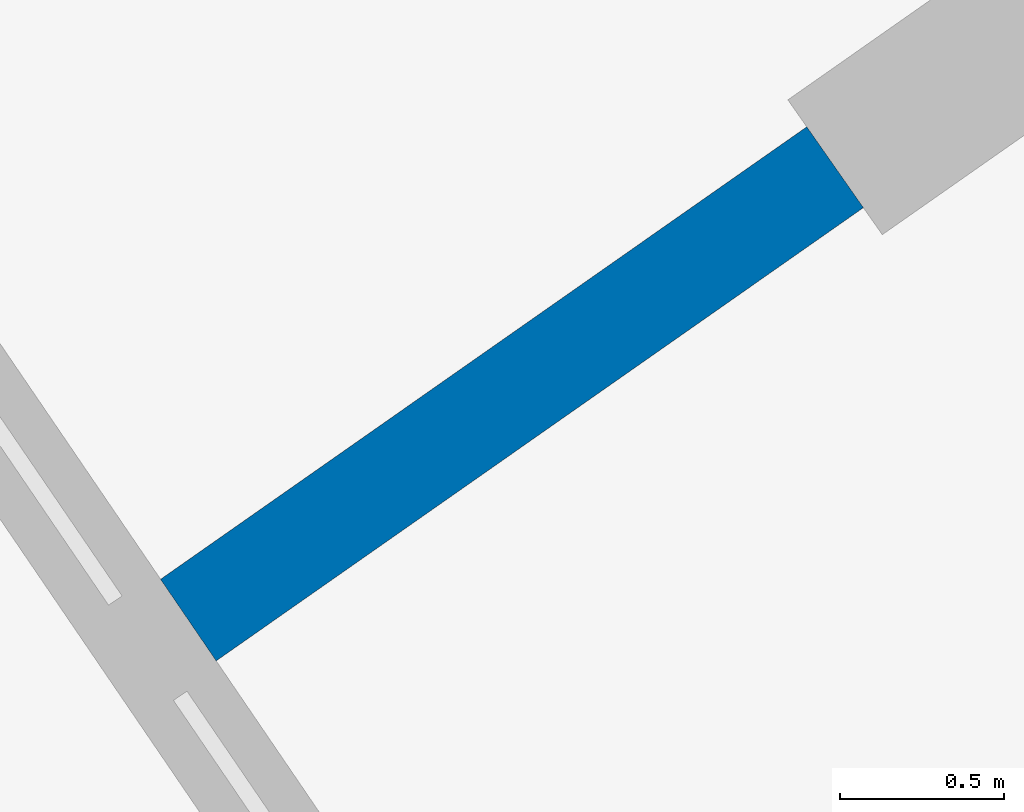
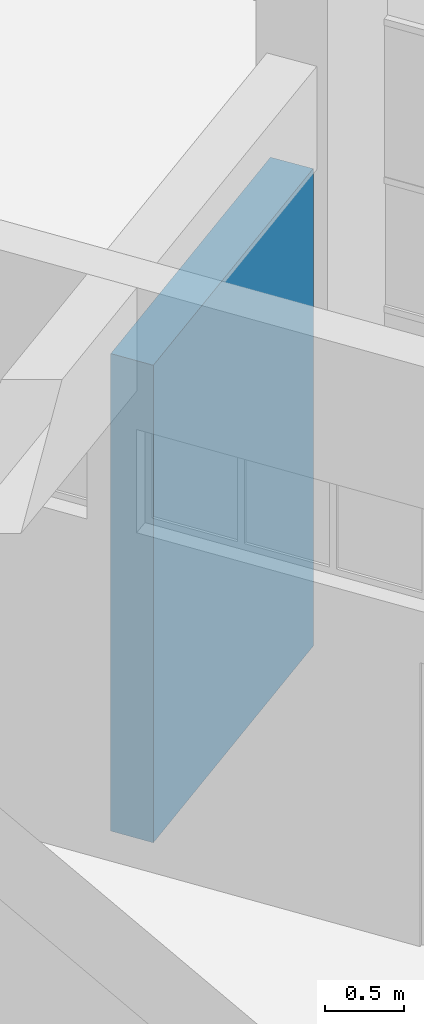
# One storey, part 64 of 157: 1 wall.
"""IFC2X3 building model written with IfcOpenShell, lengths in millimetres."""

from ifc_helpers import new_model, entity, si_unit, converted_unit, derived_unit, direction, frame, origin, place, context, subcontext, project, spatial, polyline, outline, extrude, material, layer, layer_set, layer_usage, type_object, element, save


model = new_model("IFC2X3")

# Units and contexts
model_context = context("Model", 3, precision=0.01, world=origin(), true_north=direction((6.123031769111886e-17, 1.0)))
body_context = subcontext(model_context, "Body", "Model", "MODEL_VIEW")
ifc_project = project(units=[si_unit("LENGTHUNIT", "METRE", prefix="MILLI"), si_unit("AREAUNIT", "SQUARE_METRE"), si_unit("VOLUMEUNIT", "CUBIC_METRE"), converted_unit("PLANEANGLEUNIT", "DEGREE", entity("IfcRatioMeasure", 0.017453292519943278), si_unit("PLANEANGLEUNIT", "RADIAN"), dimensions=[0, 0, 0, 0, 0, 0, 0]), si_unit("MASSUNIT", "GRAM", prefix="KILO"), derived_unit("MASSDENSITYUNIT", [(si_unit("MASSUNIT", "GRAM", prefix="KILO"), 1), (si_unit("LENGTHUNIT", "METRE"), -3)]), derived_unit("MOMENTOFINERTIAUNIT", [(si_unit("LENGTHUNIT", "METRE"), 4)]), si_unit("TIMEUNIT", "SECOND"), si_unit("FREQUENCYUNIT", "HERTZ"), si_unit("THERMODYNAMICTEMPERATUREUNIT", "DEGREE_CELSIUS"), derived_unit("THERMALTRANSMITTANCEUNIT", [(si_unit("MASSUNIT", "GRAM", prefix="KILO"), 1), (si_unit("THERMODYNAMICTEMPERATUREUNIT", "KELVIN"), -1), (si_unit("TIMEUNIT", "SECOND"), -3)]), derived_unit("THERMALCONDUCTANCEUNIT", [(si_unit("MASSUNIT", "GRAM", prefix="KILO"), 1), (si_unit("LENGTHUNIT", "METRE"), 1), (si_unit("THERMODYNAMICTEMPERATUREUNIT", "KELVIN"), -1), (si_unit("TIMEUNIT", "SECOND"), -3)]), derived_unit("VOLUMETRICFLOWRATEUNIT", [(si_unit("LENGTHUNIT", "METRE"), 3), (si_unit("TIMEUNIT", "SECOND"), -1)]), derived_unit("MASSFLOWRATEUNIT", [(si_unit("MASSUNIT", "GRAM", prefix="KILO"), 1), (si_unit("TIMEUNIT", "SECOND"), -1)]), derived_unit("ROTATIONALFREQUENCYUNIT", [(si_unit("TIMEUNIT", "SECOND"), -1)]), si_unit("ELECTRICCURRENTUNIT", "AMPERE"), si_unit("ELECTRICVOLTAGEUNIT", "VOLT"), si_unit("POWERUNIT", "WATT"), converted_unit("FORCEUNIT", "KIP", entity("IfcRatioMeasure", 2.088543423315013e-05), si_unit("FORCEUNIT", "NEWTON"), dimensions=[1, 1, -2, 0, 0, 0, 0]), si_unit("ILLUMINANCEUNIT", "LUX"), si_unit("LUMINOUSFLUXUNIT", "LUMEN"), si_unit("LUMINOUSINTENSITYUNIT", "CANDELA"), derived_unit("USERDEFINED", [(si_unit("MASSUNIT", "GRAM", prefix="KILO"), -1), (si_unit("LENGTHUNIT", "METRE"), -2), (si_unit("TIMEUNIT", "SECOND"), 3), (si_unit("LUMINOUSFLUXUNIT", "LUMEN"), 1)]), derived_unit("USERDEFINED", [(si_unit("MASSUNIT", "GRAM", prefix="KILO"), 1), (si_unit("LENGTHUNIT", "METRE"), 3), (si_unit("TIMEUNIT", "SECOND"), -3), (si_unit("ELECTRICCURRENTUNIT", "AMPERE"), -2)]), derived_unit("USERDEFINED", [(si_unit("LENGTHUNIT", "METRE"), 2), (si_unit("TIMEUNIT", "SECOND"), -2)]), derived_unit("SOUNDPOWERUNIT", [(si_unit("MASSUNIT", "GRAM", prefix="KILO"), 1), (si_unit("LENGTHUNIT", "METRE"), 2), (si_unit("TIMEUNIT", "SECOND"), -3)]), derived_unit("SOUNDPRESSUREUNIT", [(si_unit("MASSUNIT", "GRAM", prefix="KILO"), 1), (si_unit("LENGTHUNIT", "METRE"), -1), (si_unit("TIMEUNIT", "SECOND"), -2)]), derived_unit("LINEARVELOCITYUNIT", [(si_unit("LENGTHUNIT", "METRE"), 1), (si_unit("TIMEUNIT", "SECOND"), -1)]), si_unit("PRESSUREUNIT", "PASCAL"), derived_unit("USERDEFINED", [(si_unit("LENGTHUNIT", "METRE"), -2), (si_unit("MASSUNIT", "GRAM", prefix="KILO"), 1), (si_unit("TIMEUNIT", "SECOND"), -2)]), derived_unit("LINEARFORCEUNIT", [(si_unit("MASSUNIT", "GRAM", prefix="KILO"), 1), (si_unit("LENGTHUNIT", "METRE"), 1), (si_unit("TIMEUNIT", "SECOND"), -2), (si_unit("LENGTHUNIT", "METRE"), -1)]), derived_unit("PLANARFORCEUNIT", [(si_unit("MASSUNIT", "GRAM", prefix="KILO"), 1), (si_unit("LENGTHUNIT", "METRE"), 1), (si_unit("TIMEUNIT", "SECOND"), -2), (si_unit("LENGTHUNIT", "METRE"), -2)]), derived_unit("SPECIFICHEATCAPACITYUNIT", [(si_unit("LENGTHUNIT", "METRE"), 2), (si_unit("TIMEUNIT", "SECOND"), -2), (si_unit("THERMODYNAMICTEMPERATUREUNIT", "KELVIN"), -1)]), derived_unit("VAPORPERMEABILITYUNIT", [(si_unit("TIMEUNIT", "SECOND"), 1), (si_unit("LENGTHUNIT", "METRE"), -1)]), derived_unit("DYNAMICVISCOSITYUNIT", [(si_unit("MASSUNIT", "GRAM", prefix="KILO"), 1), (si_unit("LENGTHUNIT", "METRE"), -1), (si_unit("TIMEUNIT", "SECOND"), -1)]), derived_unit("THERMALEXPANSIONCOEFFICIENTUNIT", [(si_unit("THERMODYNAMICTEMPERATUREUNIT", "KELVIN"), -1)])], contexts=[model_context])

# Site, building, storey
site_placement = place(None, frame((0.0, 0.0, 0.0), z_axis=(0.0, 0.0, 1.0), x_axis=(0.8191520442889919, 0.5735764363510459, 0.0)))
site = spatial("IfcSite", under=ifc_project, at=site_placement, Name="Default", CompositionType="ELEMENT")
building_placement = place(site_placement, origin())
building = spatial("IfcBuilding", under=site, at=building_placement, CompositionType="ELEMENT")
storey_placement = place(building_placement, origin())
storey = spatial("IfcBuildingStorey", under=building, at=storey_placement, Name="1.EG +0.00", CompositionType="ELEMENT", Elevation=-4.331468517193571e-12)

# Wall
ifc_material = material(Name="Analytical Wall Surface_CJC")
ifc_layer = layer(ifc_material, 300.0)
ifc_layer_set = layer_set([ifc_layer], Name="Basic Wall:Wand_Innen_30")
ifc_layer_usage = layer_usage(ifc_layer_set, "AXIS2", "NEGATIVE", 150.0)
wall_type = type_object("IfcWallType", Name="Basic Wall:Wand_Innen_30", PredefinedType="STANDARD", material=ifc_layer_set)
wall_placement = place(storey_placement, frame((-211910.8068101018, 73396.3589143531, 0.0), z_axis=(0.0, 0.0, 1.0), x_axis=(-1.0, 0.0, 0.0)))
element("IfcWallStandardCase", 1, at=wall_placement, inside=storey, type_object=wall_type, material=ifc_layer_usage, Name="Basic Wall:Wand_Innen_30", ObjectType="Basic Wall:Wand_Innen_30", context=body_context, shape_type="SweptSolid", body=[
    extrude(outline(polyline([(2398.321345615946, -150.0), (2402.140531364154, 150.0), (0.0, 150.0), (0.0, -150.0), (2398.321345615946, -150.0)])), origin(), (0.0, 0.0, 1.0), 3700.0000000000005),
])

save(model, "model.ifc")
